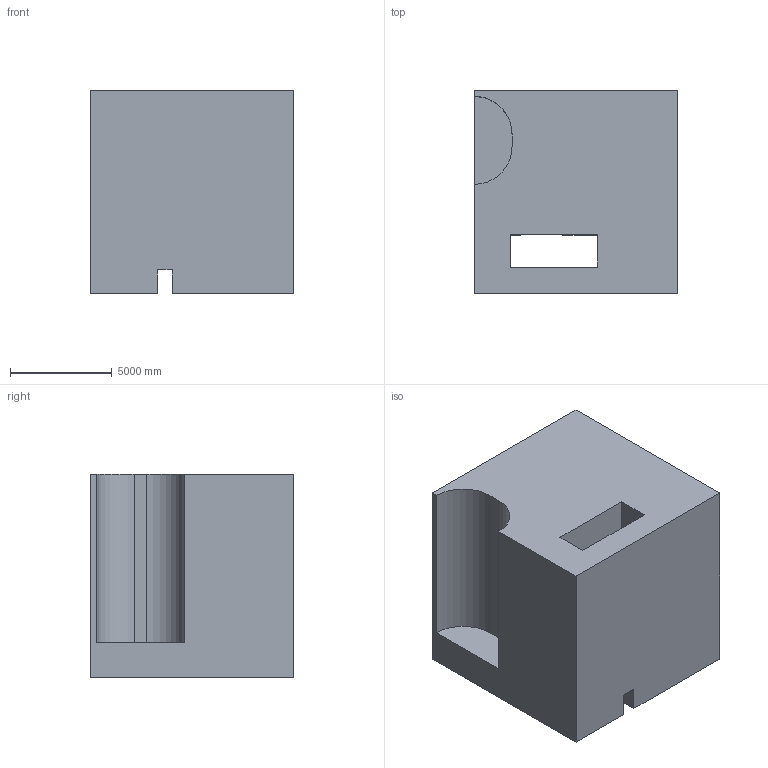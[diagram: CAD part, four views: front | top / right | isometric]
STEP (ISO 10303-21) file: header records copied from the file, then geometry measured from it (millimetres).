
FILE_DESCRIPTION (( 'STEP AP203' ), '1' );
FILE_NAME ('31.STEP', '2022-09-01T11:40:36', ( 'user' ), ( '' ), 'SwSTEP 2.0', 'SolidWorks 2021', '' );
FILE_SCHEMA (( 'CONFIG_CONTROL_DESIGN' ));
Length unit declared in the file: centimetre
Products named in the file (1): 31
Bounding box: 10000 x 10000 x 10000 mm (x, y, z)
Volume: 854962716321.5 mm3; surface area: 750724426.9 mm2
Topology: 1 solids, 1 shells, 25 faces, 72 edges, 48 vertices
Faces by surface type: plane 23, cylinder 2
Entity records: 891 total; most frequent: CARTESIAN_POINT 146, ORIENTED_EDGE 144, DIRECTION 128, EDGE_CURVE 72, VECTOR 68, LINE 68, VERTEX_POINT 48, AXIS2_PLACEMENT_3D 30
